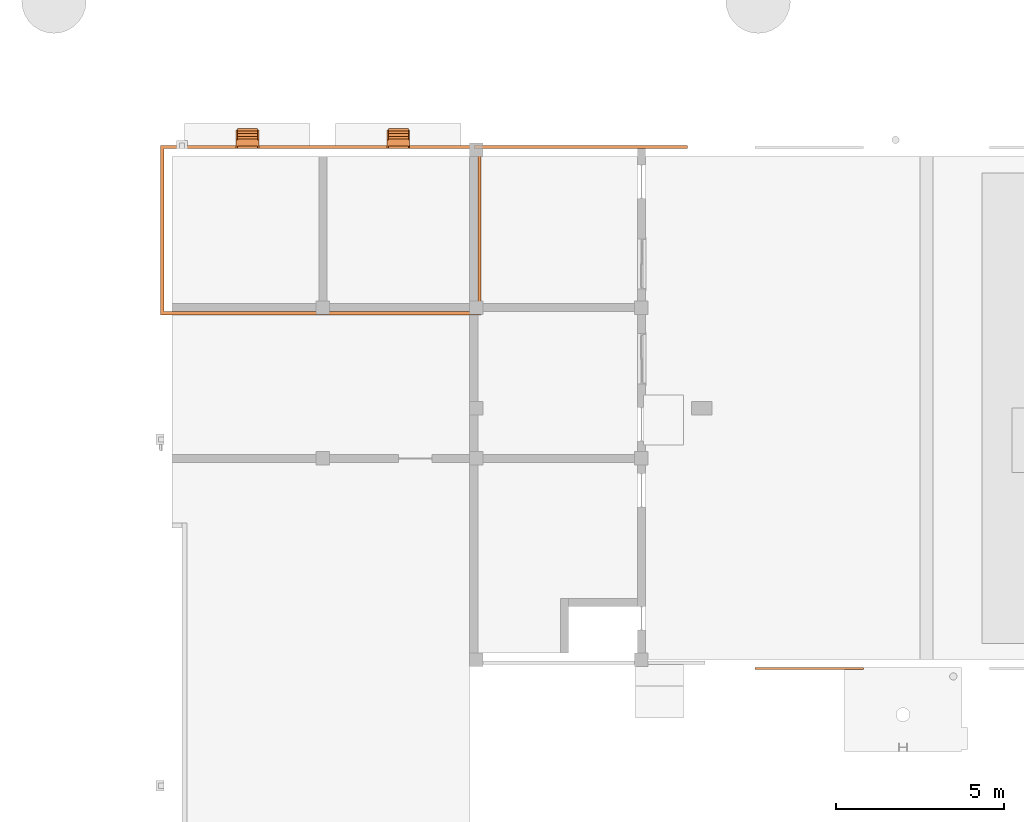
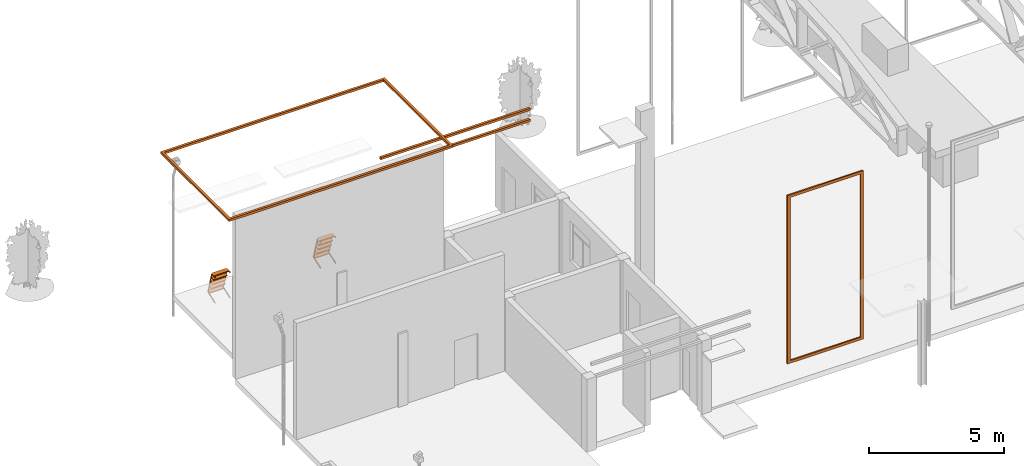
# One storey, part 7 of 14: 6 proxies.
"""IFC2X3 building model written with IfcOpenShell, lengths in millimetres."""

import ifcopenshell
import ifcopenshell.guid

model = None  # the IFC model being written
_history = None  # IfcOwnerHistory: only IFC2X3 demands one
_inside = {}  # id of a spatial element -> (the spatial element, [elements in it])
_under = {}  # id of a project, library or spatial element -> (it, [spatial elements below it])
_declared = {}  # id of a project -> (the project, [libraries it declares])
_typed = {}  # id of a type object -> (the type object, [elements of that type])
_made_of = {}  # id of a material, layer set ... -> (it, [elements and type objects made of it])


def new_model(schema):
    """Start an empty IFC model of exactly this schema.

    Asked for "IFC4X3", IfcOpenShell would pick the latest addendum, in which some entities
    have other attributes; the version numbers below select the first issue.
    IFC2X3 requires an IfcOwnerHistory on every rooted entity: one is made here for all.
    """
    global model, _history
    if schema == "IFC4X3":
        model = ifcopenshell.file(schema_version=(4, 3, 0, 0))
    else:
        model = ifcopenshell.file(schema=schema)
    _inside.clear()
    _under.clear()
    _declared.clear()
    _typed.clear()
    _made_of.clear()
    _history = None
    if model.schema == "IFC2X3":
        org = make("IfcOrganization", Name="unknown")
        user = make(
            "IfcPersonAndOrganization",
            ThePerson=make("IfcPerson", FamilyName="unknown"),
            TheOrganization=org,
        )
        app = make(
            "IfcApplication",
            ApplicationDeveloper=org,
            Version="unknown",
            ApplicationFullName="unknown",
            ApplicationIdentifier="unknown",
        )
        _history = make(
            "IfcOwnerHistory",
            OwningUser=user,
            OwningApplication=app,
            ChangeAction="ADDED",
            CreationDate=0,
        )
    return model


def make(cls, **values):
    """One entity of the class cls with the attributes given. An attribute that is None is left unset."""
    return model.create_entity(
        cls, **{name: value for name, value in values.items() if value is not None}
    )


def entity(cls, *values):
    """Any entity or typed value of the class cls, its attributes in the order of the schema. None: left unset."""
    e = model.create_entity(cls)
    for i, value in enumerate(values):
        if value is not None:
            e[i] = value
    return e


def rooted(cls, **values):
    """An entity with a GlobalId (a new one), such as an element, a storey or a relation."""
    return make(cls, GlobalId=ifcopenshell.guid.new(), OwnerHistory=_history, **values)


def si_unit(unit_type, name, prefix=None):
    """IfcSIUnit, for example si_unit("LENGTHUNIT", "METRE", prefix="MILLI")."""
    return make("IfcSIUnit", UnitType=unit_type, Prefix=prefix, Name=name)


def converted_unit(unit_type, name, factor, base, dimensions=None, offset=None):
    """IfcConversionBasedUnit, such as the inch: factor (a typed value) times the base unit."""
    return make(
        "IfcConversionBasedUnit"
        if offset is None
        else "IfcConversionBasedUnitWithOffset",
        ConversionOffset=offset,
        Dimensions=None
        if dimensions is None
        else entity("IfcDimensionalExponents", *dimensions),
        UnitType=unit_type,
        Name=name,
        ConversionFactor=make(
            "IfcMeasureWithUnit", ValueComponent=factor, UnitComponent=base
        ),
    )


def derived_unit(unit_type, elements):
    """IfcDerivedUnit: a product of units, each with its exponent."""
    return make(
        "IfcDerivedUnit",
        Elements=[
            make("IfcDerivedUnitElement", Unit=unit, Exponent=power)
            for unit, power in elements
        ],
        UnitType=unit_type,
    )


def assignment(units):
    """IfcUnitAssignment: the units of a project."""
    return None if units is None else make("IfcUnitAssignment", Units=units)


def point(xyz):
    """IfcCartesianPoint."""
    return None if xyz is None else make("IfcCartesianPoint", Coordinates=xyz)


def direction(xyz):
    """IfcDirection."""
    return None if xyz is None else make("IfcDirection", DirectionRatios=xyz)


def frame(location, z_axis=None, x_axis=None):
    """IfcAxis2Placement3D, a coordinate frame: its origin and axes. An axis left out is left unset."""
    return make(
        "IfcAxis2Placement3D",
        Location=point(location),
        Axis=direction(z_axis),
        RefDirection=direction(x_axis),
    )


def frame_2d(location, x_axis=None):
    """IfcAxis2Placement2D, a coordinate frame in the plane: its origin and x axis."""
    return make(
        "IfcAxis2Placement2D", Location=point(location), RefDirection=direction(x_axis)
    )


def origin():
    """The frame at (0, 0, 0) with its axes left unset."""
    return frame((0.0, 0.0, 0.0))


def origin_2d_with_axis():
    """The frame at (0, 0) in the plane with the x axis (1, 0) written out."""
    return frame_2d((0.0, 0.0), x_axis=(1.0, 0.0))


def place(relative_to, where):
    """IfcLocalPlacement: puts the frame where relative to a parent placement (None: the world)."""
    return make(
        "IfcLocalPlacement", PlacementRelTo=relative_to, RelativePlacement=where
    )


def context(
    kind, dimensions, precision=None, world=None, true_north=None, identifier=None
):
    """IfcGeometricRepresentationContext, for example the 3D "Model" context."""
    return make(
        "IfcGeometricRepresentationContext",
        ContextIdentifier=identifier,
        ContextType=kind,
        CoordinateSpaceDimension=dimensions,
        Precision=precision,
        WorldCoordinateSystem=world,
        TrueNorth=true_north,
    )


def subcontext(parent, identifier, kind, view, scale=None):
    """IfcGeometricRepresentationSubContext, for example "Body" below "Model"."""
    return make(
        "IfcGeometricRepresentationSubContext",
        ContextIdentifier=identifier,
        ContextType=kind,
        ParentContext=parent,
        TargetScale=scale,
        TargetView=view,
    )


def project(units=None, contexts=None):
    """IfcProject with its units and contexts."""
    return rooted(
        "IfcProject",
        Name="project",
        RepresentationContexts=contexts,
        UnitsInContext=assignment(units),
    )


def spatial(cls, under=None, at=None, **own):
    """A site, building, storey or space (cls), placed at a placement, below another one or the project."""
    s = rooted(cls, ObjectPlacement=at, **own)
    if under is not None:
        _under.setdefault(under.id(), (under, []))[1].append(s)
    return s


def polyline(points):
    """IfcPolyline through the points."""
    return make("IfcPolyline", Points=[point(p) for p in points])


def profile(cls, at=None, kind="AREA", **sizes):
    """A parametric profile (cls). Its sizes go by their IFC names, for example OverallWidth=200.0."""
    return make(cls, ProfileType=kind, Position=at, **sizes)


def rectangle(**sizes):
    """IfcRectangleProfileDef."""
    return profile("IfcRectangleProfileDef", **sizes)


def outline(outer, holes=None, kind="AREA"):
    """IfcArbitraryClosedProfileDef: a profile drawn as a closed curve; with holes, ...WithVoids."""
    if holes is None:
        return make("IfcArbitraryClosedProfileDef", ProfileType=kind, OuterCurve=outer)
    return make(
        "IfcArbitraryProfileDefWithVoids",
        ProfileType=kind,
        OuterCurve=outer,
        InnerCurves=holes,
    )


def extrude(swept, where, along, depth):
    """IfcExtrudedAreaSolid: the profile swept, set in the frame where, extruded along a direction by depth."""
    return make(
        "IfcExtrudedAreaSolid",
        SweptArea=swept,
        Position=where,
        ExtrudedDirection=direction(along),
        Depth=depth,
    )


def shape(context_of_items, identifier, shape_type, items):
    """IfcShapeRepresentation: the items that make up one representation, for example the "Body"."""
    return make(
        "IfcShapeRepresentation",
        ContextOfItems=context_of_items,
        RepresentationIdentifier=identifier,
        RepresentationType=shape_type,
        Items=items,
    )


def source(mapping_origin, context_of_items, identifier, shape_type, items):
    """IfcRepresentationMap: a shape defined once, which mapped items show again and again."""
    return make(
        "IfcRepresentationMap",
        MappingOrigin=mapping_origin,
        MappedRepresentation=shape(context_of_items, identifier, shape_type, items),
    )


def transform(
    local_origin,
    x_axis=None,
    y_axis=None,
    z_axis=None,
    scale=None,
    scale2=None,
    scale3=None,
    uniform=True,
):
    """IfcCartesianTransformationOperator3D, or its non-uniform kind. x_axis, y_axis, z_axis: its Axis1, 2, 3."""
    if uniform:
        return make(
            "IfcCartesianTransformationOperator3D",
            Axis1=direction(x_axis),
            Axis2=direction(y_axis),
            LocalOrigin=point(local_origin),
            Scale=scale,
            Axis3=direction(z_axis),
        )
    return make(
        "IfcCartesianTransformationOperator3DnonUniform",
        Axis1=direction(x_axis),
        Axis2=direction(y_axis),
        LocalOrigin=point(local_origin),
        Scale=scale,
        Axis3=direction(z_axis),
        Scale2=scale2,
        Scale3=scale3,
    )


def mapped(mapping_source, mapping_target):
    """IfcMappedItem: shows the shape of a source again, moved by a transform."""
    return make(
        "IfcMappedItem", MappingSource=mapping_source, MappingTarget=mapping_target
    )


def material(Name=None, Category=None):
    """IfcMaterial."""
    return make("IfcMaterial", Name=Name, Category=Category)


def made_of(thing, what):
    """Note that an element or type object is made of a material, layer set ...; save() writes the relation."""
    if what is not None:
        _made_of.setdefault(what.id(), (what, []))[1].append(thing)
    return thing


def type_object(cls, material=None, **own):
    """A type object (cls), such as IfcWallType, which elements share."""
    return made_of(rooted(cls, **own), material)


def type_shapes(of_type, sources):
    """Give a type object the sources (RepresentationMaps) that its elements show as mapped items."""
    of_type.RepresentationMaps = sources


def element(
    cls,
    number,
    at=None,
    inside=None,
    cuts=None,
    type_object=None,
    material=None,
    context=None,
    identifier="Body",
    shape_type=None,
    held_by="IfcProductDefinitionShape",
    body=None,
    shapes=None,
    **own,
):
    """One element of the class cls, such as IfcWall. Its Tag is "e" and its number.

    at: its placement. inside: the storey or other place that contains it. cuts: it is an
    opening in that element (IfcRelVoidsElement). A single representation is given by context,
    identifier, shape_type and body (its items); several are given by shapes. held_by: the class
    of the entity that holds the representations. save() writes the other relations.
    """
    e = rooted(cls, Tag="e%d" % number, ObjectPlacement=at, **own)
    if body is not None:
        shapes = [shape(context, identifier, shape_type, body)]
    if shapes is not None:
        e.Representation = make(held_by, Representations=shapes)
    if inside is not None:
        _inside.setdefault(inside.id(), (inside, []))[1].append(e)
    if cuts is not None:
        rooted(
            "IfcRelVoidsElement", RelatingBuildingElement=cuts, RelatedOpeningElement=e
        )
    if type_object is not None:
        _typed.setdefault(type_object.id(), (type_object, []))[1].append(e)
    return made_of(e, material)


def aggregate(whole, parts):
    """IfcRelAggregates: a whole, such as a stair, and the parts it consists of."""
    return rooted("IfcRelAggregates", RelatingObject=whole, RelatedObjects=parts)


def save(model, path):
    """Write the relations noted so far, then the file.

    IfcRelAggregates (storeys below a building ...), IfcRelContainedInSpatialStructure (elements
    in a storey), IfcRelDefinesByType, IfcRelAssociatesMaterial and IfcRelDeclares: one each for
    every whole, place, type object, material and project.
    """
    for whole, parts in _under.values():
        aggregate(whole, parts)
    for where, things in _inside.values():
        rooted(
            "IfcRelContainedInSpatialStructure",
            RelatedElements=things,
            RelatingStructure=where,
        )
    for kind, things in _typed.values():
        rooted("IfcRelDefinesByType", RelatedObjects=things, RelatingType=kind)
    for what, things in _made_of.values():
        rooted("IfcRelAssociatesMaterial", RelatedObjects=things, RelatingMaterial=what)
    for by, libraries in _declared.values():
        rooted("IfcRelDeclares", RelatingContext=by, RelatedDefinitions=libraries)
    model.write(path)


model = new_model("IFC2X3")

# Units and contexts
model_context = context("Model", 3, precision=0.01, world=origin(), true_north=direction((6.12303176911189e-17, 1.0)))
body_context = subcontext(model_context, "Body", "Model", "MODEL_VIEW")
ifc_project = project(units=[si_unit("LENGTHUNIT", "METRE", prefix="MILLI"), si_unit("AREAUNIT", "SQUARE_METRE"), si_unit("VOLUMEUNIT", "CUBIC_METRE"), converted_unit("PLANEANGLEUNIT", "DEGREE", entity("IfcRatioMeasure", 0.0174532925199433), si_unit("PLANEANGLEUNIT", "RADIAN"), dimensions=[0, 0, 0, 0, 0, 0, 0]), si_unit("MASSUNIT", "GRAM", prefix="KILO"), derived_unit("MASSDENSITYUNIT", [(si_unit("MASSUNIT", "GRAM", prefix="KILO"), 1), (si_unit("LENGTHUNIT", "METRE"), -3)]), si_unit("TIMEUNIT", "SECOND"), si_unit("FREQUENCYUNIT", "HERTZ"), si_unit("THERMODYNAMICTEMPERATUREUNIT", "DEGREE_CELSIUS"), derived_unit("THERMALTRANSMITTANCEUNIT", [(si_unit("MASSUNIT", "GRAM", prefix="KILO"), 1), (si_unit("THERMODYNAMICTEMPERATUREUNIT", "KELVIN"), -1), (si_unit("TIMEUNIT", "SECOND"), -3)]), derived_unit("VOLUMETRICFLOWRATEUNIT", [(si_unit("LENGTHUNIT", "METRE"), 3), (si_unit("TIMEUNIT", "SECOND"), -1)]), si_unit("ELECTRICCURRENTUNIT", "AMPERE"), si_unit("ELECTRICVOLTAGEUNIT", "VOLT"), si_unit("POWERUNIT", "WATT"), si_unit("FORCEUNIT", "NEWTON", prefix="KILO"), si_unit("ILLUMINANCEUNIT", "LUX"), si_unit("LUMINOUSFLUXUNIT", "LUMEN"), si_unit("LUMINOUSINTENSITYUNIT", "CANDELA"), derived_unit("USERDEFINED", [(si_unit("MASSUNIT", "GRAM", prefix="KILO"), -1), (si_unit("LENGTHUNIT", "METRE"), -2), (si_unit("TIMEUNIT", "SECOND"), 3), (si_unit("LUMINOUSFLUXUNIT", "LUMEN"), 1)]), derived_unit("LINEARVELOCITYUNIT", [(si_unit("LENGTHUNIT", "METRE"), 1), (si_unit("TIMEUNIT", "SECOND"), -1)]), si_unit("PRESSUREUNIT", "PASCAL"), derived_unit("USERDEFINED", [(si_unit("LENGTHUNIT", "METRE"), -2), (si_unit("MASSUNIT", "GRAM", prefix="KILO"), 1), (si_unit("TIMEUNIT", "SECOND"), -2)])], contexts=[model_context])

# Site, building, storey
site_placement = place(None, origin())
site = spatial("IfcSite", under=ifc_project, at=site_placement, Name="表面", CompositionType="ELEMENT")
building_placement = place(site_placement, origin())
building = spatial("IfcBuilding", under=site, at=building_placement, CompositionType="ELEMENT")
storey_placement = place(building_placement, origin())
storey = spatial("IfcBuildingStorey", under=building, at=storey_placement, Name="±0.000", CompositionType="ELEMENT", Elevation=0.0)

# Proxies
ifc_material_1 = material(Name="彩钢")
building_element_proxy_type_1 = type_object("IfcBuildingElementProxyType", Name="T-1", PredefinedType="NOTDEFINED", material=ifc_material_1)
shared_shape_1 = source(origin(), body_context, "Body", "SweptSolid", [
    extrude(rectangle(XDim=600.0, YDim=200.0, at=frame_2d((0.0, -2.8421709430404e-14), x_axis=(1.0, 0.0))), frame((125.0, 545.750000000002, -800.0), z_axis=(0.0, 0.0, 1.0), x_axis=(-1.0, 0.0, 0.0)), (0.0, 0.0, 1.0), 40.0000000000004),
    extrude(rectangle(XDim=600.0, YDim=200.0, at=frame_2d((0.0, 2.8421709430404e-14), x_axis=(1.0, 0.0))), frame((125.0, 465.500000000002, -560.0), z_axis=(0.0, 0.0, 1.0), x_axis=(-1.0, 0.0, 0.0)), (0.0, 0.0, 1.0), 40.0000000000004),
    extrude(rectangle(XDim=600.0, YDim=200.0, at=frame_2d((0.0, 2.8421709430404e-14), x_axis=(1.0, 0.0))), frame((125.0, 385.250000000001, -320.0), z_axis=(0.0, 0.0, 1.0), x_axis=(-1.0, 0.0, 0.0)), (0.0, 0.0, 1.0), 40.0000000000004),
    extrude(rectangle(XDim=600.0, YDim=200.0, at=frame_2d((0.0, -2.8421709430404e-14), x_axis=(1.0, 0.0))), frame((125.0, 626.0, -1040.0), z_axis=(0.0, 0.0, 1.0), x_axis=(-1.0, 0.0, 0.0)), (0.0, 0.0, 1.0), 40.0000000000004),
    extrude(rectangle(XDim=600.0, YDim=200.0, at=frame_2d((0.0, -2.8421709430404e-14), x_axis=(1.0, 0.0))), frame((125.0, 305.0, -80.0), z_axis=(0.0, 0.0, 1.0), x_axis=(-1.0, 0.0, 0.0)), (0.0, 0.0, 1.0), 40.0000000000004),
    extrude(outline(polyline([(-60.2482472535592, -552.041962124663), (189.751752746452, -552.041962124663), (189.751752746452, -512.041962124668), (-37.6006320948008, -512.041962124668), (-300.909884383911, 426.80679169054), (189.75175274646, 605.444981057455), (189.75175274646, 647.958037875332), (-360.248247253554, 447.958037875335), (-60.2482472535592, -552.041962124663)])), frame((-215.0, 309.751752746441, -592.041962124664), z_axis=(1.0, 0.0, 0.0), x_axis=(0.0, -1.0, 0.0)), (0.0, 0.0, 1.0), 40.0),
    extrude(outline(polyline([(-60.2482472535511, -552.041962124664), (189.751752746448, -552.041962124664), (189.751752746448, -512.041962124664), (-37.6006320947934, -512.041962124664), (-300.909884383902, 426.806791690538), (189.751752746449, 605.444981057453), (189.751752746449, 647.958037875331), (-360.248247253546, 447.958037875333), (-60.2482472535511, -552.041962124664)])), frame((425.0, 309.751752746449, -592.041962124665), z_axis=(1.0, 0.0, 0.0), x_axis=(0.0, -1.0, 0.0)), (0.0, 0.0, 1.0), 40.0),
])
type_shapes(building_element_proxy_type_1, [shared_shape_1])
for number, where, name in (
    (1, (-40903.2986810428, 15729.6974073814, 1040.0), "变压器室钢梯:T-1"),
    (2, (-45402.7986810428, 15729.6974073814, 1040.0), "变压器室钢梯:T-1"),
):
    element("IfcBuildingElementProxy", number, at=place(storey_placement, frame(where)), inside=storey, type_object=building_element_proxy_type_1, material=ifc_material_1, Name=name, ObjectType="T-1", context=body_context, shape_type="MappedRepresentation", body=[
        mapped(shared_shape_1, transform((0.0, 0.0, 0.0), scale=1.0)),
    ])
ifc_material_2 = material(Name="砖石建筑 - 瓷砖")
building_element_proxy_type_2 = type_object("IfcBuildingElementProxyType", Name="3mX7360", PredefinedType="NOTDEFINED", material=ifc_material_2)
shared_shape_2 = source(origin(), body_context, "Body", "SweptSolid", [
    extrude(outline(polyline([(-1620.0, -3800.0), (1620.0, -3800.0), (1620.0, 3800.0), (-1620.0, 3800.0), (-1620.0, -3800.0)]), holes=[polyline([(-1500.0, -3680.0), (-1500.0, 3680.0), (1500.0, 3680.0), (1500.0, -3680.0), (-1500.0, -3680.0)])]), frame((125.0, 120.0, 4159.66314124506), z_axis=(0.0, 1.0, 0.0), x_axis=(1.0, 0.0, 0.0)), (0.0, 0.0, 1.0), 60.0),
])
type_shapes(building_element_proxy_type_2, [shared_shape_2])
proxy_1_placement = place(storey_placement, frame((-28403.798781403, 489.697407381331, 720.336858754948), z_axis=(0.0, 0.0, 1.0), x_axis=(-1.0, 0.0, 0.0)))
element("IfcBuildingElementProxy", 3, at=proxy_1_placement, inside=storey, type_object=building_element_proxy_type_2, material=ifc_material_2, Name="基于墙的墙面装饰:3mX7360", ObjectType="3mX7360", context=body_context, shape_type="MappedRepresentation", body=[
    mapped(shared_shape_2, transform((0.0, 0.0, 0.0), scale=1.0)),
])
proxy_2_placement = place(storey_placement, origin())
element("IfcBuildingElementProxy", 4, at=proxy_2_placement, inside=storey, Name="墙饰条:压顶", ObjectType="墙饰条:压顶", context=body_context, shape_type="SweptSolid", body=[
    extrude(outline(polyline([(-4680.0, -50.0), (4680.0, -50.0), (4780.0, 50.0), (-4780.0, 50.0), (-4680.0, -50.0)])), frame((-43088.798781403, 15899.6974073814, 7290.0)), (0.0, 0.0, 1.0), 100.0),
    extrude(outline(polyline([(-2430.0, -50.0), (2430.0, -50.0), (2530.0, 50.0), (-2530.0, 50.0), (-2430.0, -50.0)])), frame((-47818.7987814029, 13419.6974073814, 7290.0), z_axis=(0.0, 0.0, 1.0), x_axis=(0.0, 1.0, 0.0)), (0.0, 0.0, 1.0), 100.0),
    extrude(outline(polyline([(-2530.0, -50.0), (2530.0, -50.0), (2430.0, 50.0), (-2430.0, 50.0), (-2530.0, -50.0)])), frame((-38358.798781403, 13419.6974073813, 7290.0), z_axis=(0.0, 0.0, 1.0), x_axis=(0.0, 1.0, 0.0)), (0.0, 0.0, 1.0), 100.0),
    extrude(outline(polyline([(-4780.0, -50.0), (4780.0, -50.0), (4680.0, 50.0), (-4680.0, 50.0), (-4780.0, -50.0)])), frame((-43088.798781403, 10939.6974073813, 7290.0)), (0.0, 0.0, 1.0), 100.0),
])
proxy_3_placement = place(storey_placement, origin())
element("IfcBuildingElementProxy", 5, at=proxy_3_placement, inside=storey, Name="墙饰条:压顶", ObjectType="墙饰条:压顶", context=body_context, shape_type="SweptSolid", body=[
    extrude(rectangle(XDim=5000.00000000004, YDim=99.9999999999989, at=frame_2d((2.27373675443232e-12, 1.08357767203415e-12), x_axis=(1.0, 0.0))), frame((-36028.798781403, 15899.6974073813, 3800.0)), (0.0, 0.0, 1.0), 100.0),
    extrude(rectangle(XDim=1379.99999999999, YDim=99.9999999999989, at=frame_2d((-2.1600499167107e-12, 0.0), x_axis=(1.0, 0.0))), frame((-32838.798781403, 15899.6974073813, 3800.0)), (0.0, 0.0, 1.0), 100.0),
])
proxy_4_placement = place(storey_placement, origin())
element("IfcBuildingElementProxy", 6, at=proxy_4_placement, inside=storey, Name="墙饰条:压顶", ObjectType="墙饰条:压顶", context=body_context, shape_type="SweptSolid", body=[
    extrude(rectangle(XDim=5000.00000000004, YDim=99.9999999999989, at=frame_2d((2.27373675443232e-12, 1.08357767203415e-12), x_axis=(1.0, 0.0))), frame((-36028.798781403, 15899.6974073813, 3300.0)), (0.0, 0.0, 1.0), 100.0),
    extrude(rectangle(XDim=1380.0, YDim=99.9999999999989, at=origin_2d_with_axis()), frame((-32838.798781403, 15899.6974073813, 3300.0)), (0.0, 0.0, 1.0), 100.0),
])

save(model, "model.ifc")
